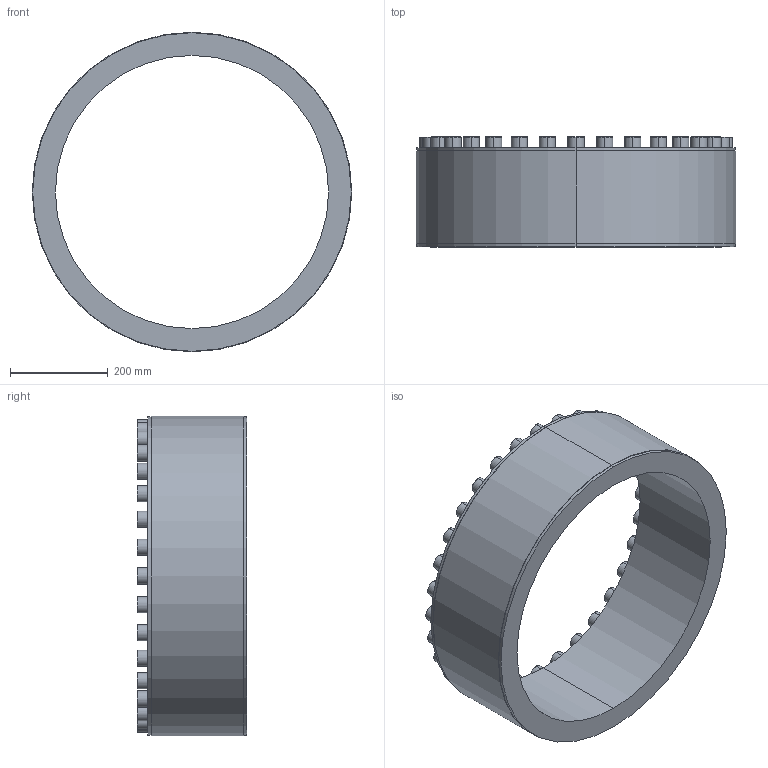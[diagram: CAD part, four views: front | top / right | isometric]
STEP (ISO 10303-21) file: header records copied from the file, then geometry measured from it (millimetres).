
FILE_DESCRIPTION (( 'STEP AP203' ), '1' );
FILE_NAME ('PL-D1 560-655.STEP', '2021-10-23T00:28:29', ( '' ), ( '' ), 'SwSTEP 2.0', 'SolidWorks 2018', '' );
FILE_SCHEMA (( 'CONFIG_CONTROL_DESIGN' ));
Length unit declared in the file: millimetre
Products named in the file (1): PL-D1 560-655
Bounding box: 655 x 225 x 655 mm (x, y, z)
Volume: 18890024.9 mm3; surface area: 1049084.8 mm2
Topology: 1 solids, 1 shells, 396 faces, 920 edges, 592 vertices
Faces by surface type: plane 260, cylinder 72, torus 64
Entity records: 11285 total; most frequent: DIRECTION 1986, CARTESIAN_POINT 1909, ORIENTED_EDGE 1840, EDGE_CURVE 920, AXIS2_PLACEMENT_3D 669, VECTOR 648, LINE 648, VERTEX_POINT 592
